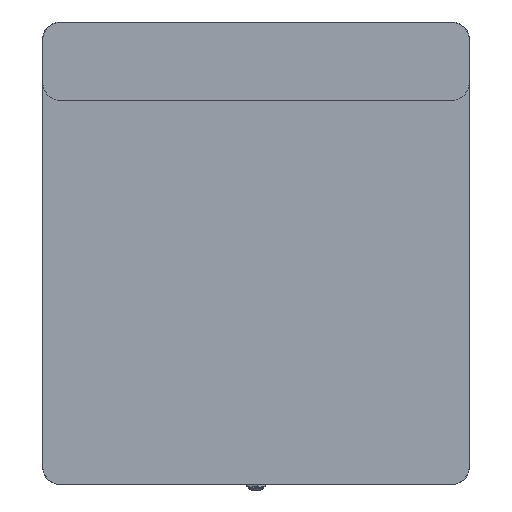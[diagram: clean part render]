
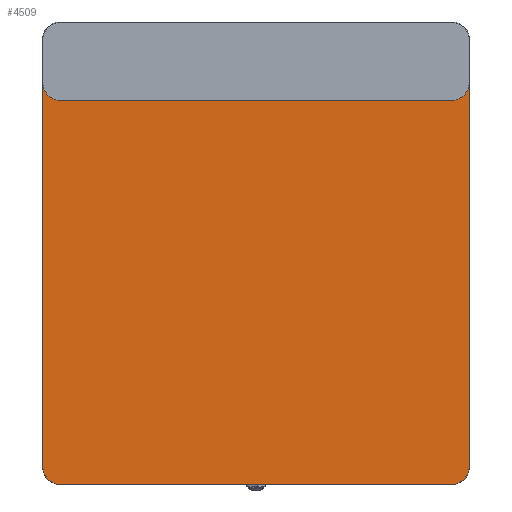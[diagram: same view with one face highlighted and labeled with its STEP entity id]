
A CAD part, front view. The second image highlights one B-rep face of the part: STEP entity #4509.
In plain terms, the highlighted planar face has unit normal (0, -1, 0) as drawn and (0, 0, 1) by its records, which use the part's own axes.
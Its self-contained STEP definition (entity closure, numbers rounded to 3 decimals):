
#271=PLANE('',#4969);
#463=FACE_OUTER_BOUND('',#721,.T.);
#721=EDGE_LOOP('',(#3474,#3475,#3476,#3477,#3478,#3479,#3480,#3481));
#1100=LINE('',#7038,#1563);
#1107=LINE('',#7056,#1570);
#1112=LINE('',#7066,#1575);
#1113=LINE('',#7073,#1576);
#1563=VECTOR('',#5632,1000.);
#1570=VECTOR('',#5651,1000.);
#1575=VECTOR('',#5662,1000.);
#1576=VECTOR('',#5671,1000.);
#1925=CIRCLE('',#4965,24.5);
#1926=CIRCLE('',#4968,24.5);
#1927=CIRCLE('',#4970,24.5);
#1928=CIRCLE('',#4971,24.5);
#2153=VERTEX_POINT('',#7035);
#2154=VERTEX_POINT('',#7037);
#2158=VERTEX_POINT('',#7054);
#2159=VERTEX_POINT('',#7055);
#2160=VERTEX_POINT('',#7060);
#2161=VERTEX_POINT('',#7064);
#2162=VERTEX_POINT('',#7070);
#2163=VERTEX_POINT('',#7072);
#2633=EDGE_CURVE('',#2153,#2154,#1100,.T.);
#2642=EDGE_CURVE('',#2158,#2159,#1107,.T.);
#2646=EDGE_CURVE('',#2160,#2158,#1925,.T.);
#2648=EDGE_CURVE('',#2161,#2160,#1112,.T.);
#2649=EDGE_CURVE('',#2154,#2161,#1926,.T.);
#2650=EDGE_CURVE('',#2153,#2162,#1927,.T.);
#2651=EDGE_CURVE('',#2162,#2163,#1113,.T.);
#2652=EDGE_CURVE('',#2163,#2159,#1928,.T.);
#3474=ORIENTED_EDGE('',*,*,#2650,.T.);
#3475=ORIENTED_EDGE('',*,*,#2651,.T.);
#3476=ORIENTED_EDGE('',*,*,#2652,.T.);
#3477=ORIENTED_EDGE('',*,*,#2642,.F.);
#3478=ORIENTED_EDGE('',*,*,#2646,.F.);
#3479=ORIENTED_EDGE('',*,*,#2648,.F.);
#3480=ORIENTED_EDGE('',*,*,#2649,.F.);
#3481=ORIENTED_EDGE('',*,*,#2633,.F.);
#4509=ADVANCED_FACE('',(#463),#271,.T.);
#4965=AXIS2_PLACEMENT_3D('',#7062,#5657,#5658);
#4968=AXIS2_PLACEMENT_3D('',#7068,#5665,#5666);
#4969=AXIS2_PLACEMENT_3D('',#7069,#5667,#5668);
#4970=AXIS2_PLACEMENT_3D('',#7071,#5669,#5670);
#4971=AXIS2_PLACEMENT_3D('',#7074,#5672,#5673);
#5632=DIRECTION('',(0.,-1.,0.));
#5651=DIRECTION('',(0.,1.,0.));
#5657=DIRECTION('center_axis',(0.,0.,
-1.));
#5658=DIRECTION('ref_axis',(-1.,0.,0.));
#5662=DIRECTION('',(-1.,0.,0.));
#5665=DIRECTION('center_axis',(0.,0.,
-1.));
#5666=DIRECTION('ref_axis',(0.,-1.,0.));
#5667=DIRECTION('center_axis',(0.,0.,1.));
#5668=DIRECTION('ref_axis',(1.,0.,0.));
#5669=DIRECTION('center_axis',(0.,0.,
-1.));
#5670=DIRECTION('ref_axis',(0.,-1.,0.));
#5671=DIRECTION('',(-1.,0.,0.));
#5672=DIRECTION('center_axis',(0.,0.,
-1.));
#5673=DIRECTION('ref_axis',(-1.,0.,0.));
#7035=CARTESIAN_POINT('',(520.654,-95.428,5.));
#7037=CARTESIAN_POINT('',(520.654,-634.928,5.));
#7038=CARTESIAN_POINT('',(520.654,-172.428,5.));
#7054=CARTESIAN_POINT('',(-78.346,-634.928,5.));
#7055=CARTESIAN_POINT('',(-78.346,-95.428,5.));
#7056=CARTESIAN_POINT('',(-78.346,-497.428,5.));
#7060=CARTESIAN_POINT('',(-53.846,-659.428,5.));
#7062=CARTESIAN_POINT('Origin',(-53.846,-634.928,5.));
#7064=CARTESIAN_POINT('',(496.154,-659.428,5.));
#7066=CARTESIAN_POINT('',(371.154,-659.428,5.));
#7068=CARTESIAN_POINT('Origin',(496.154,-634.928,5.));
#7069=CARTESIAN_POINT('Origin',(221.154,-334.928,5.));
#7070=CARTESIAN_POINT('',(496.154,-119.928,5.));
#7071=CARTESIAN_POINT('Origin',(496.154,-95.428,5.));
#7072=CARTESIAN_POINT('',(-53.846,-119.928,5.));
#7073=CARTESIAN_POINT('',(221.154,-119.928,5.));
#7074=CARTESIAN_POINT('Origin',(-53.846,-95.428,5.));
